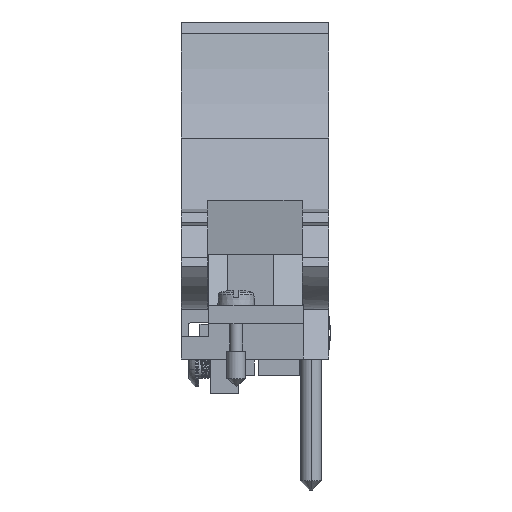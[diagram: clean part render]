
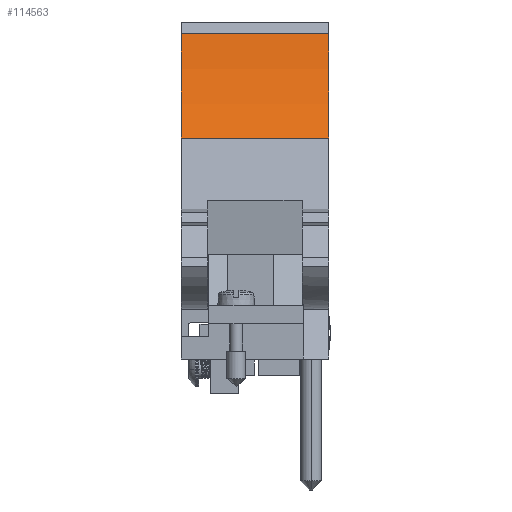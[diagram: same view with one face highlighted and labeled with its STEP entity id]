
A CAD part, front view. The second image highlights one B-rep face of the part: STEP entity #114563.
In plain terms, the highlighted cylindrical face has radius 51.46 mm (diameter 102.919 mm), a partial arc.
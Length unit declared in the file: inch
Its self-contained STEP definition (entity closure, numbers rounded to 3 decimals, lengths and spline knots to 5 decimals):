
#96111=CARTESIAN_POINT('',(-0.155,-5.95043,6.05078));
#96112=DIRECTION('',(1.,0.,0.));
#96113=DIRECTION('',(0.,0.9,-0.435));
#96114=AXIS2_PLACEMENT_3D('',#96111,#96112,#96113);
#97437=CARTESIAN_POINT('',(0.633,-5.95043,6.05078));
#97438=DIRECTION('',(1.,0.,0.));
#97439=DIRECTION('',(0.,0.9,-0.435));
#97440=AXIS2_PLACEMENT_3D('',#97437,#97438,#97439);
#97708=DIRECTION('',(1.,0.,0.));
#97709=VECTOR('',#97708,0.788);
#97710=CARTESIAN_POINT('',(-0.155,-3.95043,5.72745));
#97711=LINE('',#97710,#97709);
#97716=DIRECTION('',(1.,0.,0.));
#97717=VECTOR('',#97716,0.788);
#97718=CARTESIAN_POINT('',(-0.155,-4.12619,5.16948));
#97719=LINE('',#97718,#97717);
#109254=CARTESIAN_POINT('',(-0.155,-4.12619,5.16948));
#109255=CARTESIAN_POINT('',(-0.155,-3.95043,5.72745));
#109256=VERTEX_POINT('',#109254);
#109257=VERTEX_POINT('',#109255);
#109258=CARTESIAN_POINT('',(0.633,-4.12619,5.16948));
#109259=CARTESIAN_POINT('',(0.633,-3.95043,5.72745));
#109260=VERTEX_POINT('',#109258);
#109261=VERTEX_POINT('',#109259);
#114551=CARTESIAN_POINT('',(0.633,-5.95043,6.05078));
#114552=DIRECTION('',(1.,0.,0.));
#114553=DIRECTION('',(0.,1.,0.));
#114554=AXIS2_PLACEMENT_3D('',#114551,#114552,#114553);
#114555=CYLINDRICAL_SURFACE('',#114554,2.02597);
#114556=ORIENTED_EDGE('',*,*,#112253,.T.);
#114557=ORIENTED_EDGE('',*,*,#114543,.T.);
#114558=ORIENTED_EDGE('',*,*,#114148,.F.);
#114560=ORIENTED_EDGE('',*,*,#114559,.F.);
#114561=EDGE_LOOP('',(#114556,#114557,#114558,#114560));
#114562=FACE_OUTER_BOUND('',#114561,.F.);
#114563=ADVANCED_FACE('',(#114562),#114555,.F.);
#96115=CIRCLE('',#96114,2.02597);
#97441=CIRCLE('',#97440,2.02597);
#112253=EDGE_CURVE('',#109256,#109257,#96115,.T.);
#114148=EDGE_CURVE('',#109260,#109261,#97441,.T.);
#114543=EDGE_CURVE('',#109257,#109261,#97711,.T.);
#114559=EDGE_CURVE('',#109256,#109260,#97719,.T.);
